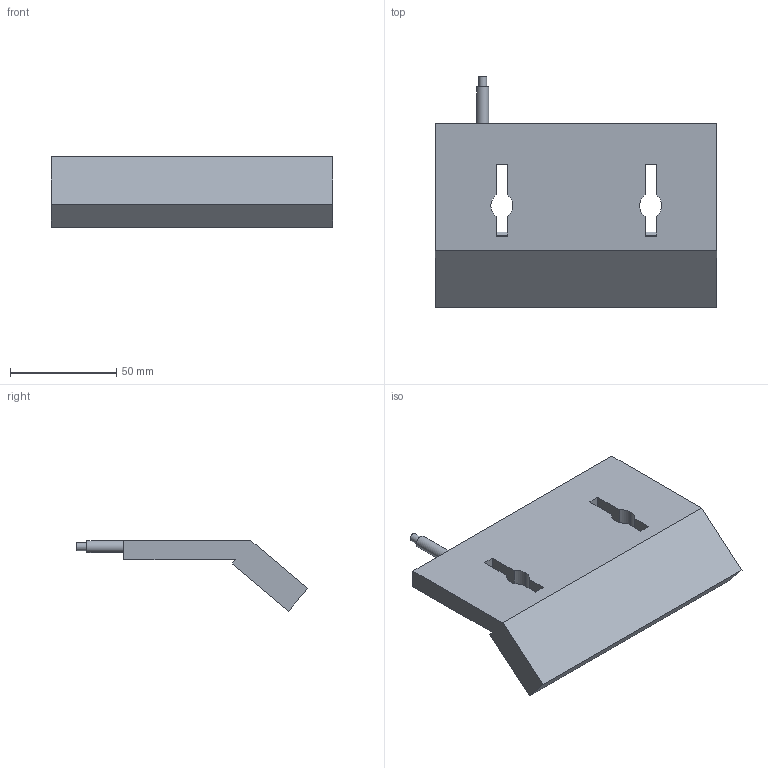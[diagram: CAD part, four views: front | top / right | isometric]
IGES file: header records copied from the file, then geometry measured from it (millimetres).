
Start section: Data from Parasolid IGES Translator 20.0.26, Copyright(c) 2006 Siemens P LM Software. All Rights Reserved.
Global section: file name: 9277961.igs; native system: By Siemens PLM Incorporated; preprocessor: XPlus GENERIC/IGES 20.0.26; author: Noname; organization: Noname; date: 20210407.163754; units: millimetre
Bounding box: 132.5 x 108.95 x 33.24 mm (x, y, z)
Surface area: 30496.9 mm2 (no closed solid volume)
Topology: 0 solids, 0 shells, 33 faces, 180 edges, 175 vertices
Faces by surface type: extrusion 25, revolution 8
